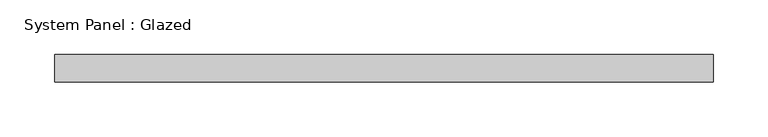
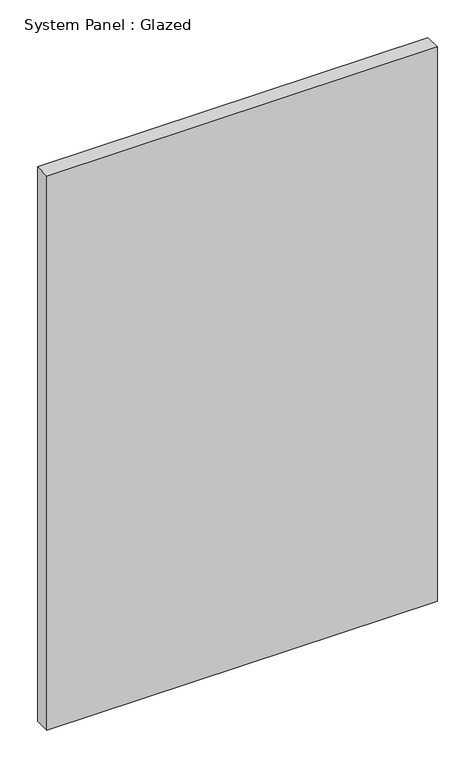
"""IFC4 building model written with IfcOpenShell, lengths in millimetres: plate geometry, System Panel : Glazed."""

from ifc_helpers import new_model, si_unit, origin, origin_with_axes, place, context, project, spatial, polyline, outline, extrude, source, transform, mapped, element, save


def system_panel_glazed_5e053889(model_context):
    return source(origin(), model_context, "Body", "SweptSolid", [
        extrude(outline(polyline([(300.0, 24.5), (-300.0, 24.5), (-300.0, 49.5), (300.0, 49.5), (300.0, 24.5)])), origin_with_axes(), (0.0, 0.0, 1.0), 900.0),
    ])


if __name__ == "__main__":
    model = new_model("IFC4")
    model_context = context("Model", 3, world=origin())
    ifc_project = project(units=[si_unit("LENGTHUNIT", "METRE", prefix="MILLI")], contexts=[model_context])
    site = spatial("IfcSite", under=ifc_project)
    building = spatial("IfcBuilding", under=site)
    placement = place(None, origin())
    system_panel_glazed_shape = system_panel_glazed_5e053889(model_context)
    element("IfcPlate", 1, ObjectType="System Panel : Glazed", at=placement, inside=building, context=model_context, shape_type="MappedRepresentation", body=[
        mapped(system_panel_glazed_shape, transform((0.0, 0.0, 0.0), x_axis=(1.0, 0.0, 0.0), y_axis=(0.0, 1.0, 0.0), z_axis=(0.0, 0.0, 1.0))),
    ])
    save(model, "model.ifc")
